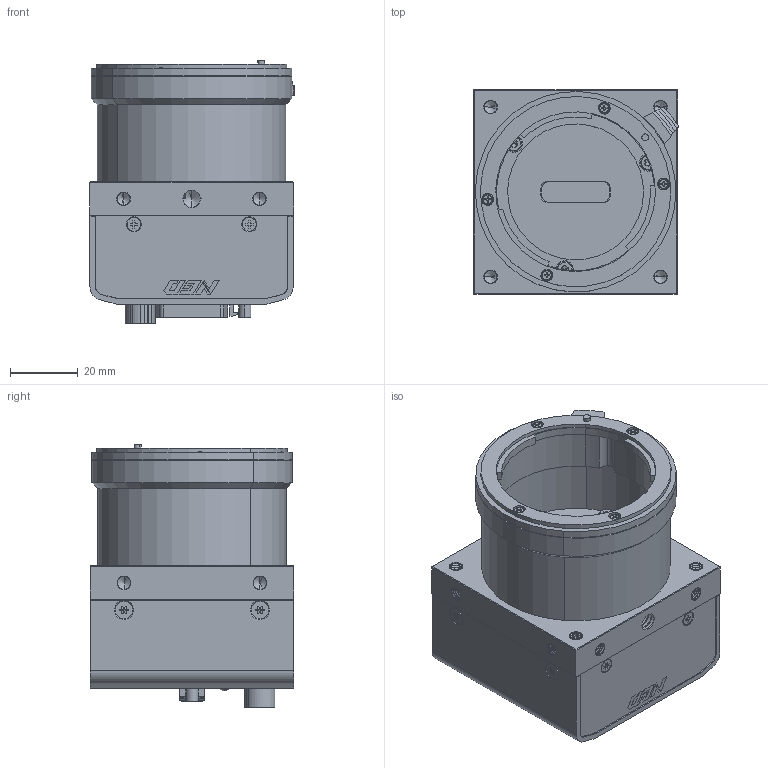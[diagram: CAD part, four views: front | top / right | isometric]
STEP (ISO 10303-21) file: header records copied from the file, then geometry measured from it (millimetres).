
FILE_DESCRIPTION (( 'STEP AP203' ), '1' );
FILE_NAME ('XCM2040DLM_Fmount_AP203.STEP', '2016-04-11T10:26:34', ( 'H-TOYOTA2' ), ( 'Microsoft' ), 'SwSTEP 2.0', 'SolidWorks 2016', '' );
FILE_SCHEMA (( 'CONFIG_CONTROL_DESIGN' ));
Length unit declared in the file: millimetre
Products named in the file (13): M2.6皿ネジ特殊; アトメルマウント鏡筒; フロントパネル; M2.6-5CAP; サイドパネル; Fマウント; 背面カバー; 精密ネジM2; CameraLink Connector(MDR26); XCM2040DLM_Fmount_AP203; Power Connector(HIROSE HR10A 4P); indicator; M2_皿ネジ
Assembly tree (24 placements, depth 2):
  XCM2040DLM_Fmount_AP203
    フロントパネル
    サイドパネル  x2
    背面カバー
    CameraLink Connector(MDR26)
    Power Connector(HIROSE HR10A 4P)
    indicator
    M2_皿ネジ  x4
    M2.6皿ネジ特殊  x4
    アトメルマウント鏡筒
    M2.6-5CAP  x3
    Fマウント
    精密ネジM2  x4
Bounding box: 60.25 x 60 x 77.34 mm (x, y, z)
Volume: 81607.2 mm3; surface area: 54628.1 mm2
Topology: 37 solids, 37 shells, 1503 faces, 3780 edges, 2421 vertices
Faces by surface type: cylinder 644, plane 602, cone 166, bspline 57, torus 32, sphere 2
Entity records: 46124 total; most frequent: CARTESIAN_POINT 19818, ORIENTED_EDGE 5430, DIRECTION 4893, EDGE_CURVE 2715, VERTEX_POINT 1765, AXIS2_PLACEMENT_3D 1743, VECTOR 1407, LINE 1407
